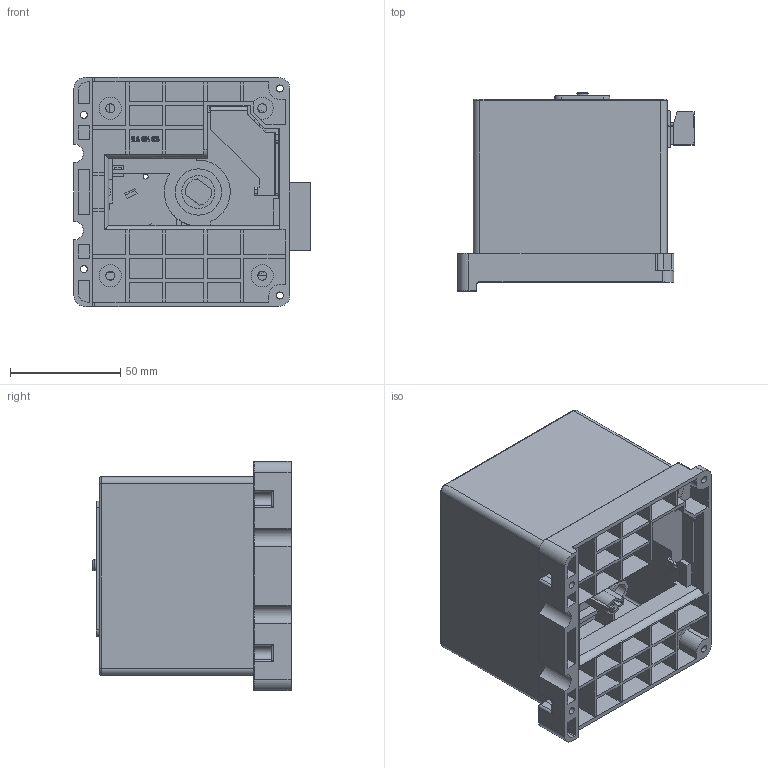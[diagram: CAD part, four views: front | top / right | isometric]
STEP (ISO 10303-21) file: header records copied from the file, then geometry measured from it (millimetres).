
FILE_DESCRIPTION(/* description */ (''),/* implementation_level */ '2;1');
FILE_NAME(/* name */ 'MOT25GP_3D DATA.stp',/* time_stamp */ '2017-12-26T17:24:46+09:00',/* author */ (''),/* organization */ (''),/* preprocessor_version */ 'ST-DEVELOPER v15',/* originating_system */ 'SIEMENS PLM Software NX 9.0',/* authorisation */ '');
FILE_SCHEMA (('AP203_CONFIGURATION_CONTROLLED_3D_DESIGN_OF_MECHANICAL_PARTS_AND_ASSEMBLIES_MIM_LF { 1 0 10303 403 2 1 2}'));
Products named in the file (11): _____id94_x_t; 12GM__WL8.310.237.2_id89_x_t; CD4B-25GP_id84_x_t; WL8.310.235.2_____id79_x_t; CD9-250____-POM-WL8.261.xd_id74_x_t; 6__________5.08_id69_x_t; _____________id64_x_t; 25GP____WL8.024.666_id16_x_t; 25GP_____WL8.235.445__id11_x_t; WL8.253.070 HY____-ABS_id6_x_t; CD4B-25GP_x_t
Assembly tree (10 placements, depth 2):
  CD4B-25GP_x_t
    WL8.253.070 HY____-ABS_id6_x_t
    25GP_____WL8.235.445__id11_x_t
    25GP____WL8.024.666_id16_x_t
    _____________id64_x_t
    6__________5.08_id69_x_t
    CD9-250____-POM-WL8.261.xd_id74_x_t
    WL8.310.235.2_____id79_x_t
    CD4B-25GP_id84_x_t
    12GM__WL8.310.237.2_id89_x_t
    _____id94_x_t
Bounding box: 107.2 x 90 x 104 mm (x, y, z)
Volume: 139412 mm3; surface area: 153417 mm2
Topology: 10 solids, 10 shells, 2039 faces, 5537 edges, 3601 vertices
Faces by surface type: plane 1484, cylinder 326, extrusion 141, torus 58, cone 21, bspline 9
Full cylindrical faces by diameter (mm): 1.9 x2, 2.15 x2, 2.3 x1, 2.4 x1, 2.8 x6, 3.2 x7, 3.5 x2, 3.7 x6, 4 x1, 4.1 x4, 4.2 x1, 5.2 x1, 5.5 x2, 6 x6, 6.5 x4, 7 x1, 7.5 x2, 8.5 x1, 9 x1, 10 x4, 10.5 x2, 15 x1, 18 x1, 21 x1, 24 x1
Entity records: 70953 total; most frequent: CARTESIAN_POINT 18676, ORIENTED_EDGE 10880, DIRECTION 9834, EDGE_CURVE 5440, VECTOR 4454, LINE 4313, VERTEX_POINT 3577, AXIS2_PLACEMENT_3D 2690
